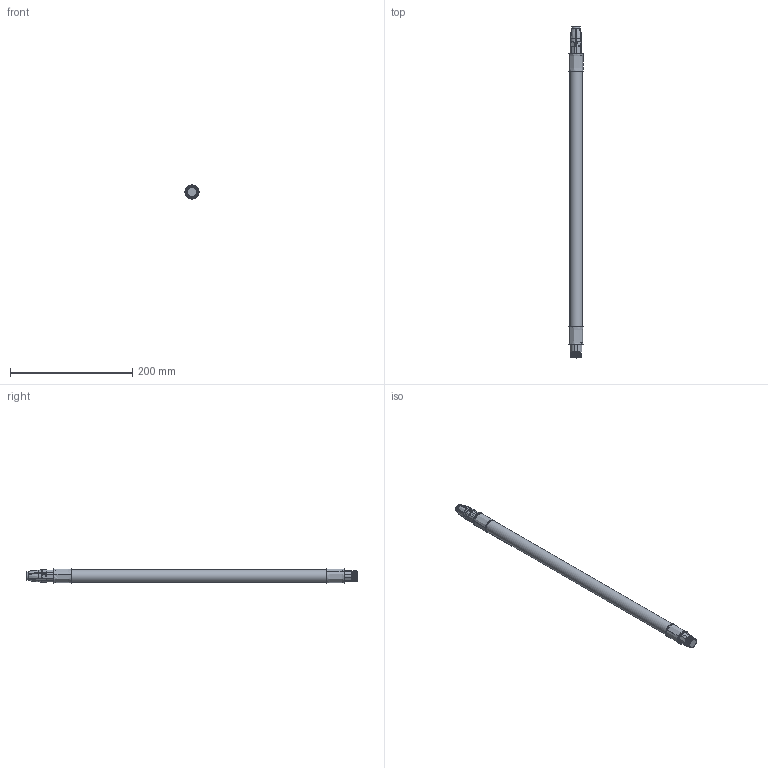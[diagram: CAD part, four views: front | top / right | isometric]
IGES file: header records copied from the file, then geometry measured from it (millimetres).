
Start section: SolidWorks IGES file using analytic representation for surfaces
Global section: file name: G:\SILVENT AB\ENGINEERING\Drawings\WEB CAD\CAD\SILVENT_X05-500.IGS; native system: SolidWorks 2021; preprocessor: SolidWorks 2021; author: p.jaasko; date: 241017.110858; units: millimetre
Bounding box: 22.99 x 543 x 22.99 mm (x, y, z)
Surface area: 47462.3 mm2 (no closed solid volume)
Topology: 0 solids, 0 shells, 540 faces, 6994 edges, 6985 vertices
Faces by surface type: revolution 380, bspline 160
